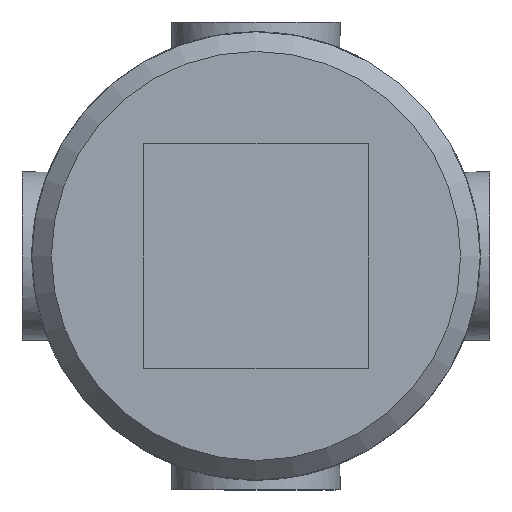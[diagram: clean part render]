
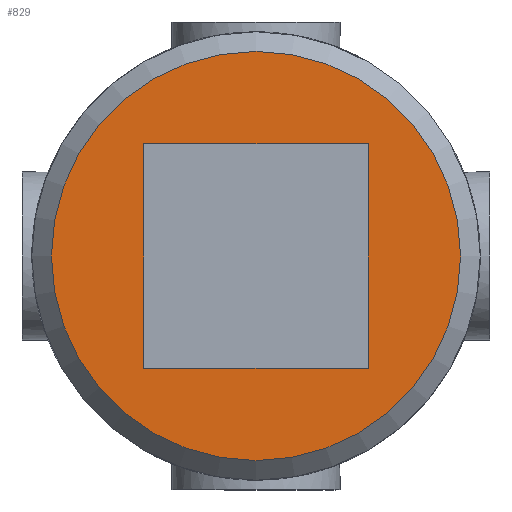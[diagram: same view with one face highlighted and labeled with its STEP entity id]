
A CAD part, front view. The second image highlights one B-rep face of the part: STEP entity #829.
In plain terms, the highlighted planar face has unit normal (0, -1, 0).
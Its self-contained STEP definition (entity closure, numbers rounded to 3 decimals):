
#92=LINE('',#1239,#132);
#96=LINE('',#1262,#136);
#102=LINE('',#1300,#142);
#105=LINE('',#1320,#145);
#132=VECTOR('',#1016,8.);
#136=VECTOR('',#1024,8.);
#142=VECTOR('',#1032,8.);
#145=VECTOR('',#1039,8.);
#172=PLANE('',#903);
#197=FACE_BOUND('',#297,.T.);
#232=FACE_OUTER_BOUND('',#296,.T.);
#296=EDGE_LOOP('',(#671));
#297=EDGE_LOOP('',(#672,#673,#674,#675));
#346=CIRCLE('',#901,7.3);
#384=VERTEX_POINT('',#1236);
#385=VERTEX_POINT('',#1238);
#391=VERTEX_POINT('',#1261);
#400=VERTEX_POINT('',#1298);
#407=VERTEX_POINT('',#1365);
#471=EDGE_CURVE('',#385,#384,#92,.T.);
#478=EDGE_CURVE('',#391,#385,#96,.T.);
#488=EDGE_CURVE('',#384,#400,#102,.T.);
#494=EDGE_CURVE('',#400,#391,#105,.T.);
#505=EDGE_CURVE('',#407,#407,#346,.T.);
#671=ORIENTED_EDGE('',*,*,#505,.F.);
#672=ORIENTED_EDGE('',*,*,#471,.T.);
#673=ORIENTED_EDGE('',*,*,#488,.T.);
#674=ORIENTED_EDGE('',*,*,#494,.T.);
#675=ORIENTED_EDGE('',*,*,#478,.T.);
#829=ADVANCED_FACE('',(#232,#197),#172,.F.);
#901=AXIS2_PLACEMENT_3D('',#1366,#1068,#1069);
#903=AXIS2_PLACEMENT_3D('',#1534,#1076,#1077);
#1016=DIRECTION('',(0.,0.,-1.));
#1024=DIRECTION('',(1.,0.,0.));
#1032=DIRECTION('',(-1.,0.,0.));
#1039=DIRECTION('',(0.,0.,1.));
#1068=DIRECTION('center_axis',(0.,1.,0.));
#1069=DIRECTION('ref_axis',(1.,0.,0.));
#1076=DIRECTION('center_axis',(0.,1.,0.));
#1077=DIRECTION('ref_axis',(0.,0.,1.));
#1236=CARTESIAN_POINT('',(4.,-24.,-4.));
#1238=CARTESIAN_POINT('',(4.,-24.,4.));
#1239=CARTESIAN_POINT('',(4.,-24.,2.));
#1261=CARTESIAN_POINT('',(-4.,-24.,4.));
#1262=CARTESIAN_POINT('',(-2.,-24.,4.));
#1298=CARTESIAN_POINT('',(-4.,-24.,-4.));
#1300=CARTESIAN_POINT('',(2.,-24.,-4.));
#1320=CARTESIAN_POINT('',(-4.,-24.,-2.));
#1365=CARTESIAN_POINT('',(-7.3,-24.,0.));
#1366=CARTESIAN_POINT('Origin',(0.,-24.,0.));
#1534=CARTESIAN_POINT('Origin',(0.,-24.,0.));
